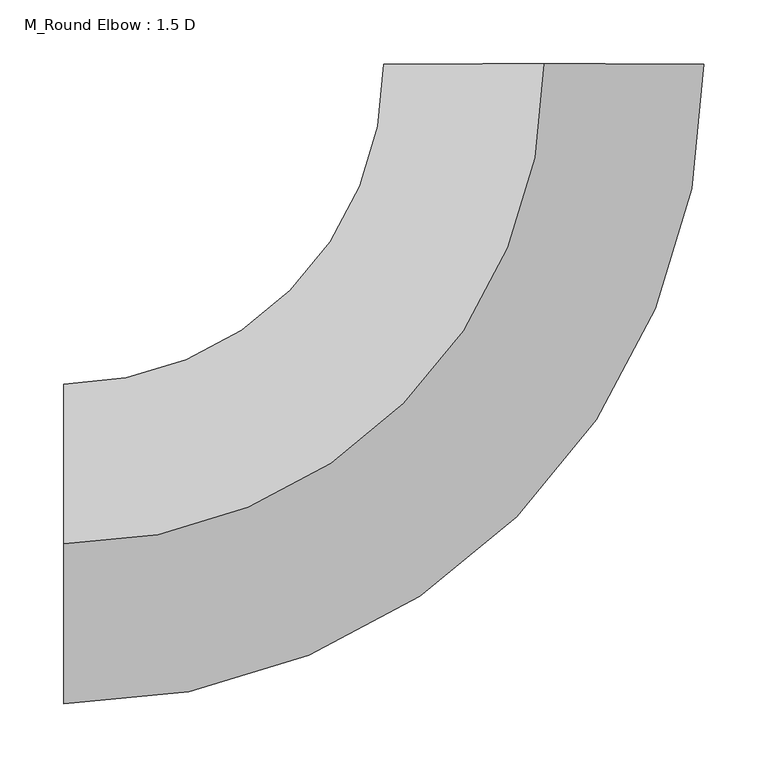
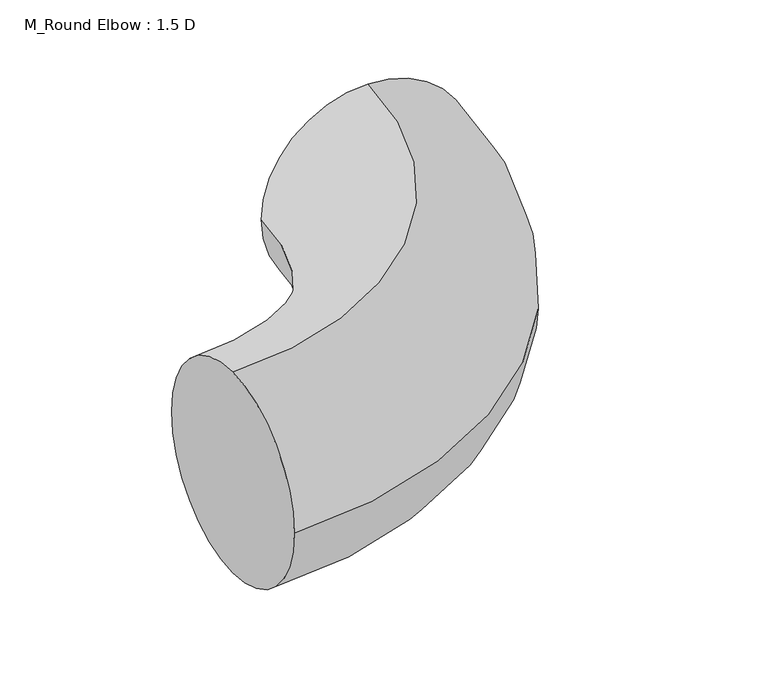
"""IFC4 building model written with IfcOpenShell, lengths in millimetres: duct fitting geometry, M_Round Elbow : 1.5 D."""

import ifcopenshell
import ifcopenshell.guid

model = None  # the IFC model being written
_history = None  # IfcOwnerHistory: only IFC2X3 demands one
_inside = {}  # id of a spatial element -> (the spatial element, [elements in it])
_under = {}  # id of a project, library or spatial element -> (it, [spatial elements below it])
_declared = {}  # id of a project -> (the project, [libraries it declares])
_typed = {}  # id of a type object -> (the type object, [elements of that type])
_made_of = {}  # id of a material, layer set ... -> (it, [elements and type objects made of it])


def new_model(schema):
    """Start an empty IFC model of exactly this schema.

    Asked for "IFC4X3", IfcOpenShell would pick the latest addendum, in which some entities
    have other attributes; the version numbers below select the first issue.
    IFC2X3 requires an IfcOwnerHistory on every rooted entity: one is made here for all.
    """
    global model, _history
    if schema == "IFC4X3":
        model = ifcopenshell.file(schema_version=(4, 3, 0, 0))
    else:
        model = ifcopenshell.file(schema=schema)
    _inside.clear()
    _under.clear()
    _declared.clear()
    _typed.clear()
    _made_of.clear()
    _history = None
    if model.schema == "IFC2X3":
        org = make("IfcOrganization", Name="unknown")
        user = make(
            "IfcPersonAndOrganization",
            ThePerson=make("IfcPerson", FamilyName="unknown"),
            TheOrganization=org,
        )
        app = make(
            "IfcApplication",
            ApplicationDeveloper=org,
            Version="unknown",
            ApplicationFullName="unknown",
            ApplicationIdentifier="unknown",
        )
        _history = make(
            "IfcOwnerHistory",
            OwningUser=user,
            OwningApplication=app,
            ChangeAction="ADDED",
            CreationDate=0,
        )
    return model


def make(cls, **values):
    """One entity of the class cls with the attributes given. An attribute that is None is left unset."""
    return model.create_entity(
        cls, **{name: value for name, value in values.items() if value is not None}
    )


def rooted(cls, **values):
    """An entity with a GlobalId (a new one), such as an element, a storey or a relation."""
    return make(cls, GlobalId=ifcopenshell.guid.new(), OwnerHistory=_history, **values)


def si_unit(unit_type, name, prefix=None):
    """IfcSIUnit, for example si_unit("LENGTHUNIT", "METRE", prefix="MILLI")."""
    return make("IfcSIUnit", UnitType=unit_type, Prefix=prefix, Name=name)


def assignment(units):
    """IfcUnitAssignment: the units of a project."""
    return None if units is None else make("IfcUnitAssignment", Units=units)


def point(xyz):
    """IfcCartesianPoint."""
    return None if xyz is None else make("IfcCartesianPoint", Coordinates=xyz)


def direction(xyz):
    """IfcDirection."""
    return None if xyz is None else make("IfcDirection", DirectionRatios=xyz)


def frame(location, z_axis=None, x_axis=None):
    """IfcAxis2Placement3D, a coordinate frame: its origin and axes. An axis left out is left unset."""
    return make(
        "IfcAxis2Placement3D",
        Location=point(location),
        Axis=direction(z_axis),
        RefDirection=direction(x_axis),
    )


def origin():
    """The frame at (0, 0, 0) with its axes left unset."""
    return frame((0.0, 0.0, 0.0))


def place(relative_to, where):
    """IfcLocalPlacement: puts the frame where relative to a parent placement (None: the world)."""
    return make(
        "IfcLocalPlacement", PlacementRelTo=relative_to, RelativePlacement=where
    )


def context(
    kind, dimensions, precision=None, world=None, true_north=None, identifier=None
):
    """IfcGeometricRepresentationContext, for example the 3D "Model" context."""
    return make(
        "IfcGeometricRepresentationContext",
        ContextIdentifier=identifier,
        ContextType=kind,
        CoordinateSpaceDimension=dimensions,
        Precision=precision,
        WorldCoordinateSystem=world,
        TrueNorth=true_north,
    )


def project(units=None, contexts=None):
    """IfcProject with its units and contexts."""
    return rooted(
        "IfcProject",
        Name="project",
        RepresentationContexts=contexts,
        UnitsInContext=assignment(units),
    )


def spatial(cls, under=None, at=None, **own):
    """A site, building, storey or space (cls), placed at a placement, below another one or the project."""
    s = rooted(cls, ObjectPlacement=at, **own)
    if under is not None:
        _under.setdefault(under.id(), (under, []))[1].append(s)
    return s


def circle_curve(where, radius):
    """IfcCircle in the frame where."""
    return make("IfcCircle", Position=where, Radius=radius)


def ellipse_curve(where, semi_axis1, semi_axis2):
    """IfcEllipse in the frame where."""
    return make(
        "IfcEllipse", Position=where, SemiAxis1=semi_axis1, SemiAxis2=semi_axis2
    )


def trimmed(basis, trim1, trim2, sense, master):
    """IfcTrimmedCurve: the piece of a basis curve between two trims."""
    return make(
        "IfcTrimmedCurve",
        BasisCurve=basis,
        Trim1=trim1,
        Trim2=trim2,
        SenseAgreement=sense,
        MasterRepresentation=master,
    )


def shape(context_of_items, identifier, shape_type, items):
    """IfcShapeRepresentation: the items that make up one representation, for example the "Body"."""
    return make(
        "IfcShapeRepresentation",
        ContextOfItems=context_of_items,
        RepresentationIdentifier=identifier,
        RepresentationType=shape_type,
        Items=items,
    )


def source(mapping_origin, context_of_items, identifier, shape_type, items):
    """IfcRepresentationMap: a shape defined once, which mapped items show again and again."""
    return make(
        "IfcRepresentationMap",
        MappingOrigin=mapping_origin,
        MappedRepresentation=shape(context_of_items, identifier, shape_type, items),
    )


def transform(
    local_origin,
    x_axis=None,
    y_axis=None,
    z_axis=None,
    scale=None,
    scale2=None,
    scale3=None,
    uniform=True,
):
    """IfcCartesianTransformationOperator3D, or its non-uniform kind. x_axis, y_axis, z_axis: its Axis1, 2, 3."""
    if uniform:
        return make(
            "IfcCartesianTransformationOperator3D",
            Axis1=direction(x_axis),
            Axis2=direction(y_axis),
            LocalOrigin=point(local_origin),
            Scale=scale,
            Axis3=direction(z_axis),
        )
    return make(
        "IfcCartesianTransformationOperator3DnonUniform",
        Axis1=direction(x_axis),
        Axis2=direction(y_axis),
        LocalOrigin=point(local_origin),
        Scale=scale,
        Axis3=direction(z_axis),
        Scale2=scale2,
        Scale3=scale3,
    )


def mapped(mapping_source, mapping_target):
    """IfcMappedItem: shows the shape of a source again, moved by a transform."""
    return make(
        "IfcMappedItem", MappingSource=mapping_source, MappingTarget=mapping_target
    )


def made_of(thing, what):
    """Note that an element or type object is made of a material, layer set ...; save() writes the relation."""
    if what is not None:
        _made_of.setdefault(what.id(), (what, []))[1].append(thing)
    return thing


def element(
    cls,
    number,
    at=None,
    inside=None,
    cuts=None,
    type_object=None,
    material=None,
    context=None,
    identifier="Body",
    shape_type=None,
    held_by="IfcProductDefinitionShape",
    body=None,
    shapes=None,
    **own,
):
    """One element of the class cls, such as IfcWall. Its Tag is "e" and its number.

    at: its placement. inside: the storey or other place that contains it. cuts: it is an
    opening in that element (IfcRelVoidsElement). A single representation is given by context,
    identifier, shape_type and body (its items); several are given by shapes. held_by: the class
    of the entity that holds the representations. save() writes the other relations.
    """
    e = rooted(cls, Tag="e%d" % number, ObjectPlacement=at, **own)
    if body is not None:
        shapes = [shape(context, identifier, shape_type, body)]
    if shapes is not None:
        e.Representation = make(held_by, Representations=shapes)
    if inside is not None:
        _inside.setdefault(inside.id(), (inside, []))[1].append(e)
    if cuts is not None:
        rooted(
            "IfcRelVoidsElement", RelatingBuildingElement=cuts, RelatedOpeningElement=e
        )
    if type_object is not None:
        _typed.setdefault(type_object.id(), (type_object, []))[1].append(e)
    return made_of(e, material)


def aggregate(whole, parts):
    """IfcRelAggregates: a whole, such as a stair, and the parts it consists of."""
    return rooted("IfcRelAggregates", RelatingObject=whole, RelatedObjects=parts)


def save(model, path):
    """Write the relations noted so far, then the file.

    IfcRelAggregates (storeys below a building ...), IfcRelContainedInSpatialStructure (elements
    in a storey), IfcRelDefinesByType, IfcRelAssociatesMaterial and IfcRelDeclares: one each for
    every whole, place, type object, material and project.
    """
    for whole, parts in _under.values():
        aggregate(whole, parts)
    for where, things in _inside.values():
        rooted(
            "IfcRelContainedInSpatialStructure",
            RelatedElements=things,
            RelatingStructure=where,
        )
    for kind, things in _typed.values():
        rooted("IfcRelDefinesByType", RelatedObjects=things, RelatingType=kind)
    for what, things in _made_of.values():
        rooted("IfcRelAssociatesMaterial", RelatedObjects=things, RelatingMaterial=what)
    for by, libraries in _declared.values():
        rooted("IfcRelDeclares", RelatingContext=by, RelatedDefinitions=libraries)
    model.write(path)


def plane_surface(at):
    """IfcPlane: the flat surface through the origin of the frame at, square to its z axis."""
    return make("IfcPlane", Position=at)


def revolved_surface(curve, axis_point, axis_direction):
    """IfcSurfaceOfRevolution: the curve turned about the line through axis_point along axis_direction."""
    return make(
        "IfcSurfaceOfRevolution",
        SweptCurve=make("IfcArbitraryOpenProfileDef", ProfileType="CURVE", Curve=curve),
        AxisPosition=make("IfcAxis1Placement", Location=point(axis_point), Axis=direction(axis_direction)),
    )


def advanced_brep(points, edges, surfaces, faces):
    """IfcAdvancedBrep: a solid bounded by faces that lie on surfaces and meet in shared edges.

    An edge is (start, end): straight between two places in points (the first is 0);
    or (start, end, curve); or (start, end, curve, False) where it runs against its curve.
    A face is (place in surfaces, loops), or (place, loops, False) where it looks against
    its surface's normal. A loop lists edges by number (the first is 1), with a minus sign
    where the edge is run from its end to its start. The first loop is the outer one.
    """
    corners = [point(p) for p in points]
    vertices = [make("IfcVertexPoint", VertexGeometry=c) for c in corners]
    made = []
    for start, end, *more in edges:
        made.append(
            make(
                "IfcEdgeCurve",
                EdgeStart=vertices[start],
                EdgeEnd=vertices[end],
                EdgeGeometry=more[0] if more else make("IfcPolyline", Points=[corners[start], corners[end]]),
                SameSense=more[1] if len(more) > 1 else True,
            )
        )
    hull = []
    for where, loops, *sense in faces:
        bounds = []
        for j, loop in enumerate(loops):
            ring = [make("IfcOrientedEdge", EdgeElement=made[abs(k) - 1], Orientation=k > 0) for k in loop]
            bounds.append(
                make(
                    "IfcFaceOuterBound" if j == 0 else "IfcFaceBound",
                    Bound=make("IfcEdgeLoop", EdgeList=ring),
                    Orientation=True,
                )
            )
        hull.append(make("IfcAdvancedFace", Bounds=bounds, FaceSurface=surfaces[where], SameSense=sense[0] if sense else True))
    return make("IfcAdvancedBrep", Outer=make("IfcClosedShell", CfsFaces=hull))


def m_round_elbow_1_5_d_4a9a621c(model_context):
    return source(origin(), model_context, "Body", "AdvancedBrep", [
        advanced_brep(
        [(-375.0, 0.0, 125.0), (-375.0, 125.0, 0.0), (-375.0, 0.0, -125.0), (-375.0, -125.0, 0.0), (0.0, 375.0, 125.0), (125.0, 375.0, 0.0), (0.0, 375.0, -125.0), (-125.0, 375.0, 0.0)],
        [
            (0, 1, circle_curve(frame((-375.0, 0.0, 0.0), z_axis=(-1.0, 0.0, 0.0), x_axis=(0.0, 1.0, 0.0)), 125.0)),
            (1, 2, circle_curve(frame((-375.0, 0.0, 0.0), z_axis=(-1.0, 0.0, 0.0), x_axis=(0.0, 1.0, 0.0)), 125.0)),
            (2, 3, circle_curve(frame((-375.0, 0.0, 0.0), z_axis=(-1.0, 0.0, 0.0), x_axis=(0.0, 1.0, 0.0)), 125.0)),
            (3, 0, circle_curve(frame((-375.0, 0.0, 0.0), z_axis=(-1.0, 0.0, 0.0), x_axis=(0.0, 1.0, 0.0)), 125.0)),
            (4, 5, circle_curve(frame((0.0, 375.0, 0.0), z_axis=(0.0, 1.0, 0.0), x_axis=(-1.0, 0.0, 0.0)), 125.0)),
            (5, 6, circle_curve(frame((0.0, 375.0, 0.0), z_axis=(0.0, 1.0, 0.0), x_axis=(-1.0, 0.0, 0.0)), 125.0)),
            (6, 7, circle_curve(frame((0.0, 375.0, 0.0), z_axis=(0.0, 1.0, 0.0), x_axis=(-1.0, 0.0, 0.0)), 125.0)),
            (7, 4, circle_curve(frame((0.0, 375.0, 0.0), z_axis=(0.0, 1.0, 0.0), x_axis=(-1.0, 0.0, 0.0)), 125.0)),
            (7, 1, circle_curve(frame((-375.0, 375.0, 0.0), z_axis=(0.0, 0.0, -1.0), x_axis=(0.0, -1.0, 0.0)), 250.0)),
            (0, 4, circle_curve(frame((-375.0, 375.0, 125.0), z_axis=(0.0, 0.0, 1.0), x_axis=(0.0, -1.0, 0.0)), 375.0)),
            (6, 2, circle_curve(frame((-375.0, 375.0, -125.0), z_axis=(0.0, 0.0, -1.0), x_axis=(0.0, -1.0, 0.0)), 375.0)),
            (5, 3, circle_curve(frame((-375.0, 375.0, 0.0), z_axis=(0.0, 0.0, -1.0), x_axis=(0.0, -1.0, 0.0)), 500.0)),
        ],
        [
            plane_surface(frame((-375.0, 0.0, 0.0), z_axis=(-1.0, 0.0, 0.0), x_axis=(0.0, 0.0, 1.0))),
            plane_surface(frame((0.0, 375.0, 0.0), z_axis=(0.0, 1.0, 0.0), x_axis=(0.0, 0.0, 1.0))),
            revolved_surface(trimmed(ellipse_curve(frame((-375.0, 0.0, 0.0), z_axis=(-1.0, 0.0, 0.0), x_axis=(0.0, 1.0, 0.0)), 125.0, 125.0), [point((-375.0, 0.0, 125.0))], [point((-375.0, 125.0, 0.0))], True, "CARTESIAN"), (-375.0, 375.0, 0.0), (0.0, 0.0, 1.0)),
            revolved_surface(trimmed(ellipse_curve(frame((-375.0, 0.0, 0.0), z_axis=(-1.0, 0.0, 0.0), x_axis=(0.0, 1.0, 0.0)), 125.0, 125.0), [point((-375.0, 125.0, 0.0))], [point((-375.0, 0.0, -125.0))], True, "CARTESIAN"), (-375.0, 375.0, 0.0), (0.0, 0.0, 1.0)),
            revolved_surface(trimmed(ellipse_curve(frame((-375.0, 0.0, 0.0), z_axis=(-1.0, 0.0, 0.0), x_axis=(0.0, 1.0, 0.0)), 125.0, 125.0), [point((-375.0, 0.0, -125.0))], [point((-375.0, -125.0, 0.0))], True, "CARTESIAN"), (-375.0, 375.0, 0.0), (0.0, 0.0, 1.0)),
            revolved_surface(trimmed(ellipse_curve(frame((-375.0, 0.0, 0.0), z_axis=(-1.0, 0.0, 0.0), x_axis=(0.0, 1.0, 0.0)), 125.0, 125.0), [point((-375.0, -125.0, 0.0))], [point((-375.0, 0.0, 125.0))], True, "CARTESIAN"), (-375.0, 375.0, 0.0), (0.0, 0.0, 1.0)),
        ],
        [
            (0, [[1, 2, 3, 4]]),
            (1, [[5, 6, 7, 8]]),
            (2, [[9, -1, 10, -8]]),
            (3, [[11, -2, -9, -7]]),
            (4, [[12, -3, -11, -6]]),
            (5, [[-10, -4, -12, -5]]),
        ],
    ),
        advanced_brep(
        [(-375.0, 0.0, 125.0), (-375.0, 125.0, 0.0), (-375.0, 0.0, -125.0), (-375.0, -125.0, 0.0), (0.0, 375.0, 125.0), (125.0, 375.0, 0.0), (0.0, 375.0, -125.0), (-125.0, 375.0, 0.0)],
        [
            (0, 1, circle_curve(frame((-375.0, 0.0, 0.0), z_axis=(-1.0, 0.0, 0.0), x_axis=(0.0, 1.0, 0.0)), 125.0)),
            (1, 2, circle_curve(frame((-375.0, 0.0, 0.0), z_axis=(-1.0, 0.0, 0.0), x_axis=(0.0, 1.0, 0.0)), 125.0)),
            (2, 3, circle_curve(frame((-375.0, 0.0, 0.0), z_axis=(-1.0, 0.0, 0.0), x_axis=(0.0, 1.0, 0.0)), 125.0)),
            (3, 0, circle_curve(frame((-375.0, 0.0, 0.0), z_axis=(-1.0, 0.0, 0.0), x_axis=(0.0, 1.0, 0.0)), 125.0)),
            (4, 5, circle_curve(frame((0.0, 375.0, 0.0), z_axis=(0.0, 1.0, 0.0), x_axis=(-1.0, 0.0, 0.0)), 125.0)),
            (5, 6, circle_curve(frame((0.0, 375.0, 0.0), z_axis=(0.0, 1.0, 0.0), x_axis=(-1.0, 0.0, 0.0)), 125.0)),
            (6, 7, circle_curve(frame((0.0, 375.0, 0.0), z_axis=(0.0, 1.0, 0.0), x_axis=(-1.0, 0.0, 0.0)), 125.0)),
            (7, 4, circle_curve(frame((0.0, 375.0, 0.0), z_axis=(0.0, 1.0, 0.0), x_axis=(-1.0, 0.0, 0.0)), 125.0)),
            (7, 1, circle_curve(frame((-375.0, 375.0, 0.0), z_axis=(0.0, 0.0, -1.0), x_axis=(0.0, -1.0, 0.0)), 250.0)),
            (0, 4, circle_curve(frame((-375.0, 375.0, 125.0), z_axis=(0.0, 0.0, 1.0), x_axis=(0.0, -1.0, 0.0)), 375.0)),
            (6, 2, circle_curve(frame((-375.0, 375.0, -125.0), z_axis=(0.0, 0.0, -1.0), x_axis=(0.0, -1.0, 0.0)), 375.0)),
            (5, 3, circle_curve(frame((-375.0, 375.0, 0.0), z_axis=(0.0, 0.0, -1.0), x_axis=(0.0, -1.0, 0.0)), 500.0)),
        ],
        [
            plane_surface(frame((-375.0, 0.0, 0.0), z_axis=(-1.0, 0.0, 0.0), x_axis=(0.0, 0.0, 1.0))),
            plane_surface(frame((0.0, 375.0, 0.0), z_axis=(0.0, 1.0, 0.0), x_axis=(0.0, 0.0, 1.0))),
            revolved_surface(trimmed(ellipse_curve(frame((-375.0, 0.0, 0.0), z_axis=(-1.0, 0.0, 0.0), x_axis=(0.0, 1.0, 0.0)), 125.0, 125.0), [point((-375.0, 0.0, 125.0))], [point((-375.0, 125.0, 0.0))], True, "CARTESIAN"), (-375.0, 375.0, 0.0), (0.0, 0.0, 1.0)),
            revolved_surface(trimmed(ellipse_curve(frame((-375.0, 0.0, 0.0), z_axis=(-1.0, 0.0, 0.0), x_axis=(0.0, 1.0, 0.0)), 125.0, 125.0), [point((-375.0, 125.0, 0.0))], [point((-375.0, 0.0, -125.0))], True, "CARTESIAN"), (-375.0, 375.0, 0.0), (0.0, 0.0, 1.0)),
            revolved_surface(trimmed(ellipse_curve(frame((-375.0, 0.0, 0.0), z_axis=(-1.0, 0.0, 0.0), x_axis=(0.0, 1.0, 0.0)), 125.0, 125.0), [point((-375.0, 0.0, -125.0))], [point((-375.0, -125.0, 0.0))], True, "CARTESIAN"), (-375.0, 375.0, 0.0), (0.0, 0.0, 1.0)),
            revolved_surface(trimmed(ellipse_curve(frame((-375.0, 0.0, 0.0), z_axis=(-1.0, 0.0, 0.0), x_axis=(0.0, 1.0, 0.0)), 125.0, 125.0), [point((-375.0, -125.0, 0.0))], [point((-375.0, 0.0, 125.0))], True, "CARTESIAN"), (-375.0, 375.0, 0.0), (0.0, 0.0, 1.0)),
        ],
        [
            (0, [[1, 2, 3, 4]]),
            (1, [[5, 6, 7, 8]]),
            (2, [[9, -1, 10, -8]]),
            (3, [[11, -2, -9, -7]]),
            (4, [[12, -3, -11, -6]]),
            (5, [[-10, -4, -12, -5]]),
        ],
    ),
        advanced_brep(
        [(-375.0, 0.0, 125.0), (-375.0, 125.0, 0.0), (-375.0, 0.0, -125.0), (-375.0, -125.0, 0.0), (0.0, 375.0, 125.0), (125.0, 375.0, 0.0), (0.0, 375.0, -125.0), (-125.0, 375.0, 0.0)],
        [
            (0, 1, circle_curve(frame((-375.0, 0.0, 0.0), z_axis=(-1.0, 0.0, 0.0), x_axis=(0.0, 1.0, 0.0)), 125.0)),
            (1, 2, circle_curve(frame((-375.0, 0.0, 0.0), z_axis=(-1.0, 0.0, 0.0), x_axis=(0.0, 1.0, 0.0)), 125.0)),
            (2, 3, circle_curve(frame((-375.0, 0.0, 0.0), z_axis=(-1.0, 0.0, 0.0), x_axis=(0.0, 1.0, 0.0)), 125.0)),
            (3, 0, circle_curve(frame((-375.0, 0.0, 0.0), z_axis=(-1.0, 0.0, 0.0), x_axis=(0.0, 1.0, 0.0)), 125.0)),
            (4, 5, circle_curve(frame((0.0, 375.0, 0.0), z_axis=(0.0, 1.0, 0.0), x_axis=(-1.0, 0.0, 0.0)), 125.0)),
            (5, 6, circle_curve(frame((0.0, 375.0, 0.0), z_axis=(0.0, 1.0, 0.0), x_axis=(-1.0, 0.0, 0.0)), 125.0)),
            (6, 7, circle_curve(frame((0.0, 375.0, 0.0), z_axis=(0.0, 1.0, 0.0), x_axis=(-1.0, 0.0, 0.0)), 125.0)),
            (7, 4, circle_curve(frame((0.0, 375.0, 0.0), z_axis=(0.0, 1.0, 0.0), x_axis=(-1.0, 0.0, 0.0)), 125.0)),
            (7, 1, circle_curve(frame((-375.0, 375.0, 0.0), z_axis=(0.0, 0.0, -1.0), x_axis=(0.0, -1.0, 0.0)), 250.0)),
            (0, 4, circle_curve(frame((-375.0, 375.0, 125.0), z_axis=(0.0, 0.0, 1.0), x_axis=(0.0, -1.0, 0.0)), 375.0)),
            (6, 2, circle_curve(frame((-375.0, 375.0, -125.0), z_axis=(0.0, 0.0, -1.0), x_axis=(0.0, -1.0, 0.0)), 375.0)),
            (5, 3, circle_curve(frame((-375.0, 375.0, 0.0), z_axis=(0.0, 0.0, -1.0), x_axis=(0.0, -1.0, 0.0)), 500.0)),
        ],
        [
            plane_surface(frame((-375.0, 0.0, 0.0), z_axis=(-1.0, 0.0, 0.0), x_axis=(0.0, 0.0, 1.0))),
            plane_surface(frame((0.0, 375.0, 0.0), z_axis=(0.0, 1.0, 0.0), x_axis=(0.0, 0.0, 1.0))),
            revolved_surface(trimmed(ellipse_curve(frame((-375.0, 0.0, 0.0), z_axis=(-1.0, 0.0, 0.0), x_axis=(0.0, 1.0, 0.0)), 125.0, 125.0), [point((-375.0, 0.0, 125.0))], [point((-375.0, 125.0, 0.0))], True, "CARTESIAN"), (-375.0, 375.0, 0.0), (0.0, 0.0, 1.0)),
            revolved_surface(trimmed(ellipse_curve(frame((-375.0, 0.0, 0.0), z_axis=(-1.0, 0.0, 0.0), x_axis=(0.0, 1.0, 0.0)), 125.0, 125.0), [point((-375.0, 125.0, 0.0))], [point((-375.0, 0.0, -125.0))], True, "CARTESIAN"), (-375.0, 375.0, 0.0), (0.0, 0.0, 1.0)),
            revolved_surface(trimmed(ellipse_curve(frame((-375.0, 0.0, 0.0), z_axis=(-1.0, 0.0, 0.0), x_axis=(0.0, 1.0, 0.0)), 125.0, 125.0), [point((-375.0, 0.0, -125.0))], [point((-375.0, -125.0, 0.0))], True, "CARTESIAN"), (-375.0, 375.0, 0.0), (0.0, 0.0, 1.0)),
            revolved_surface(trimmed(ellipse_curve(frame((-375.0, 0.0, 0.0), z_axis=(-1.0, 0.0, 0.0), x_axis=(0.0, 1.0, 0.0)), 125.0, 125.0), [point((-375.0, -125.0, 0.0))], [point((-375.0, 0.0, 125.0))], True, "CARTESIAN"), (-375.0, 375.0, 0.0), (0.0, 0.0, 1.0)),
        ],
        [
            (0, [[1, 2, 3, 4]]),
            (1, [[5, 6, 7, 8]]),
            (2, [[9, -1, 10, -8]]),
            (3, [[11, -2, -9, -7]]),
            (4, [[12, -3, -11, -6]]),
            (5, [[-10, -4, -12, -5]]),
        ],
    ),
    ])


if __name__ == "__main__":
    model = new_model("IFC4")
    model_context = context("Model", 3, world=origin())
    ifc_project = project(units=[si_unit("LENGTHUNIT", "METRE", prefix="MILLI")], contexts=[model_context])
    site = spatial("IfcSite", under=ifc_project)
    building = spatial("IfcBuilding", under=site)
    placement = place(None, origin())
    m_round_elbow_1_5_d_shape = m_round_elbow_1_5_d_4a9a621c(model_context)
    element("IfcDuctFitting", 1, ObjectType="M_Round Elbow : 1.5 D", at=placement, inside=building, context=model_context, shape_type="MappedRepresentation", body=[
        mapped(m_round_elbow_1_5_d_shape, transform((0.0, 0.0, 0.0), x_axis=(1.0, 0.0, 0.0), y_axis=(0.0, 1.0, 0.0), z_axis=(0.0, 0.0, 1.0))),
    ])
    save(model, "model.ifc")
